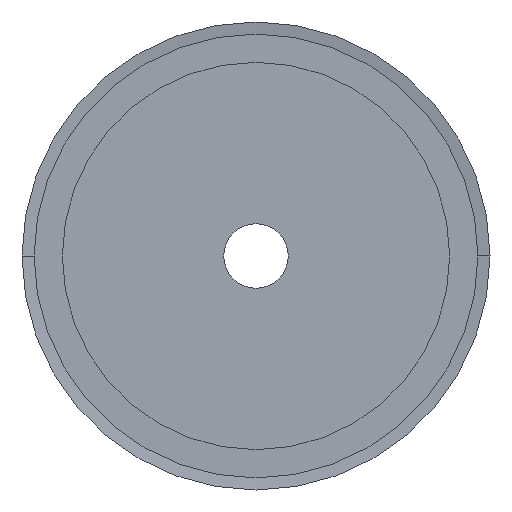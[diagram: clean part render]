
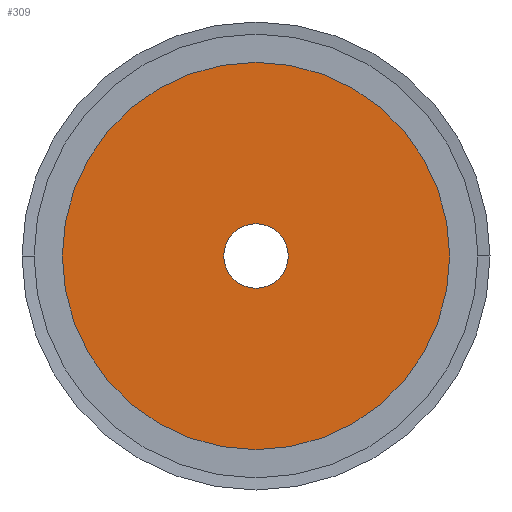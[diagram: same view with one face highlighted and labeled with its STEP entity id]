
A CAD part, left-side view. The second image highlights one B-rep face of the part: STEP entity #309.
In plain terms, the highlighted planar face has unit normal (-1, 0, 0).
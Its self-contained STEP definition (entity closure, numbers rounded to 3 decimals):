
#309 = ADVANCED_FACE( '', ( #785, #786 ), #787, .T. );
#785 = FACE_BOUND( '', #1262, .T. );
#786 = FACE_OUTER_BOUND( '', #1263, .T. );
#787 = PLANE( '', #1264 );
#1262 = EDGE_LOOP( '', ( #3315, #3316 ) );
#1263 = EDGE_LOOP( '', ( #3317, #3318 ) );
#1264 = AXIS2_PLACEMENT_3D( '', #3319, #3320, #3321 );
#3315 = ORIENTED_EDGE( '', *, *, #3992, .F. );
#3316 = ORIENTED_EDGE( '', *, *, #3337, .F. );
#3317 = ORIENTED_EDGE( '', *, *, #3325, .T. );
#3318 = ORIENTED_EDGE( '', *, *, #3997, .T. );
#3319 = CARTESIAN_POINT( '', ( 0., 21., 0. ) );
#3320 = DIRECTION( '', ( -1., 0., 0. ) );
#3321 = DIRECTION( '', ( 0., 1., 0. ) );
#3325 = EDGE_CURVE( '', #3999, #4003, #4005, .T. );
#3337 = EDGE_CURVE( '', #4027, #4023, #4029, .T. );
#3992 = EDGE_CURVE( '', #4023, #4027, #5116, .T. );
#3997 = EDGE_CURVE( '', #4003, #3999, #5121, .T. );
#3999 = VERTEX_POINT( '', #5123 );
#4003 = VERTEX_POINT( '', #5128 );
#4005 = CIRCLE( '', #5131, 36. );
#4023 = VERTEX_POINT( '', #5153 );
#4027 = VERTEX_POINT( '', #5158 );
#4029 = CIRCLE( '', #5161, 6. );
#5116 = CIRCLE( '', #6624, 6. );
#5121 = CIRCLE( '', #6629, 36. );
#5123 = CARTESIAN_POINT( '', ( 0., 36., 0. ) );
#5128 = CARTESIAN_POINT( '', ( 0., -36., 0. ) );
#5131 = AXIS2_PLACEMENT_3D( '', #6635, #6636, #6637 );
#5153 = CARTESIAN_POINT( '', ( 0., 6., 0. ) );
#5158 = CARTESIAN_POINT( '', ( 0., -6., 0. ) );
#5161 = AXIS2_PLACEMENT_3D( '', #6659, #6660, #6661 );
#6624 = AXIS2_PLACEMENT_3D( '', #7872, #7873, #7874 );
#6629 = AXIS2_PLACEMENT_3D( '', #7887, #7888, #7889 );
#6635 = CARTESIAN_POINT( '', ( 0., 0., 0. ) );
#6636 = DIRECTION( '', ( -1., 0., 0. ) );
#6637 = DIRECTION( '', ( 0., 1., 0. ) );
#6659 = CARTESIAN_POINT( '', ( 0., 0., 0. ) );
#6660 = DIRECTION( '', ( -1., 0., 0. ) );
#6661 = DIRECTION( '', ( 0., 1., 0. ) );
#7872 = CARTESIAN_POINT( '', ( 0., 0., 0. ) );
#7873 = DIRECTION( '', ( -1., 0., 0. ) );
#7874 = DIRECTION( '', ( 0., 1., 0. ) );
#7887 = CARTESIAN_POINT( '', ( 0., 0., 0. ) );
#7888 = DIRECTION( '', ( -1., 0., 0. ) );
#7889 = DIRECTION( '', ( 0., 1., 0. ) );
